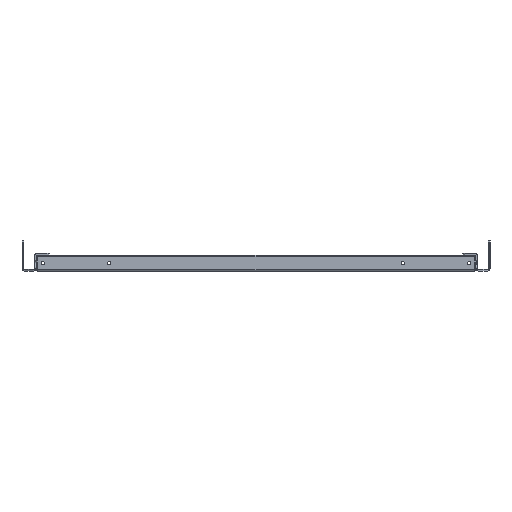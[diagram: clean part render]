
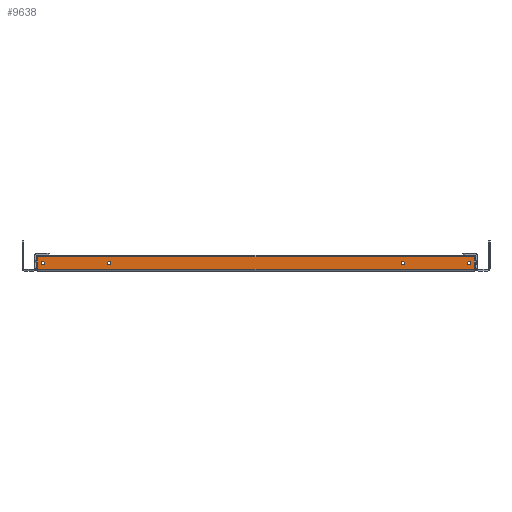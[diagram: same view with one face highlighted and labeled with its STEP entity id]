
A CAD part, left-side view. The second image highlights one B-rep face of the part: STEP entity #9638.
In plain terms, the highlighted planar face has unit normal (-1, 0, 0).
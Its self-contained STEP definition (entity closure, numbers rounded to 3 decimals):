
#83 = EDGE_CURVE ( 'NONE', #8587, #12518, #9701, .T. ) ;
#334 = CARTESIAN_POINT ( 'NONE',  ( -225., 266.5, 10. ) ) ;
#438 = CARTESIAN_POINT ( 'NONE',  ( -225., -266.5, 10. ) ) ;
#636 = DIRECTION ( 'NONE',  ( 1., 0., 0. ) ) ;
#740 = EDGE_CURVE ( 'NONE', #12105, #5027, #5229, .T. ) ;
#790 = ORIENTED_EDGE ( 'NONE', *, *, #1260, .F. ) ;
#892 = EDGE_LOOP ( 'NONE', ( #10327, #6258, #11685, #1023 ) ) ;
#948 = EDGE_CURVE ( 'NONE', #6035, #2548, #9524, .T. ) ;
#976 = CARTESIAN_POINT ( 'NONE',  ( -225., 273., 18. ) ) ;
#1023 = ORIENTED_EDGE ( 'NONE', *, *, #83, .T. ) ;
#1046 = ORIENTED_EDGE ( 'NONE', *, *, #12120, .T. ) ;
#1103 = CARTESIAN_POINT ( 'NONE',  ( -225., -183.5, 10. ) ) ;
#1260 = EDGE_CURVE ( 'NONE', #1548, #9807, #5670, .T. ) ;
#1356 = CARTESIAN_POINT ( 'NONE',  ( -225., -183.5, 10. ) ) ;
#1412 = DIRECTION ( 'NONE',  ( 0., 0., 1. ) ) ;
#1419 = DIRECTION ( 'NONE',  ( 1., 0., 0. ) ) ;
#1548 = VERTEX_POINT ( 'NONE', #10243 ) ;
#1659 = CIRCLE ( 'NONE', #8984, 2. ) ;
#1663 = CARTESIAN_POINT ( 'NONE',  ( -225., -273., 20. ) ) ;
#1895 = DIRECTION ( 'NONE',  ( 0., 0., -1. ) ) ;
#1904 = ORIENTED_EDGE ( 'NONE', *, *, #740, .T. ) ;
#1957 = LINE ( 'NONE', #2765, #2873 ) ;
#1986 = CIRCLE ( 'NONE', #3749, 2. ) ;
#2078 = CARTESIAN_POINT ( 'NONE',  ( -225., -183.5, 12. ) ) ;
#2314 = FACE_BOUND ( 'NONE', #3692, .T. ) ;
#2365 = EDGE_CURVE ( 'NONE', #6591, #8587, #10461, .T. ) ;
#2498 = AXIS2_PLACEMENT_3D ( 'NONE', #7746, #4676, #1895 ) ;
#2548 = VERTEX_POINT ( 'NONE', #9882 ) ;
#2576 = DIRECTION ( 'NONE',  ( 0., 0., -1. ) ) ;
#2765 = CARTESIAN_POINT ( 'NONE',  ( -225., 275., 18. ) ) ;
#2873 = VECTOR ( 'NONE', #7769, 1000. ) ;
#3026 = EDGE_LOOP ( 'NONE', ( #1046, #1904 ) ) ;
#3197 = ORIENTED_EDGE ( 'NONE', *, *, #7159, .F. ) ;
#3265 = EDGE_LOOP ( 'NONE', ( #5620, #10788 ) ) ;
#3395 = AXIS2_PLACEMENT_3D ( 'NONE', #8310, #9135, #1412 ) ;
#3403 = CARTESIAN_POINT ( 'NONE',  ( -225., -266.5, 12. ) ) ;
#3692 = EDGE_LOOP ( 'NONE', ( #3197, #5557 ) ) ;
#3749 = AXIS2_PLACEMENT_3D ( 'NONE', #438, #1419, #5426 ) ;
#3860 = AXIS2_PLACEMENT_3D ( 'NONE', #8202, #9210, #5310 ) ;
#3969 = EDGE_CURVE ( 'NONE', #8987, #8857, #1659, .T. ) ;
#4162 = FACE_BOUND ( 'NONE', #3026, .T. ) ;
#4338 = DIRECTION ( 'NONE',  ( 0., 0., 1. ) ) ;
#4535 = AXIS2_PLACEMENT_3D ( 'NONE', #1103, #11905, #6027 ) ;
#4676 = DIRECTION ( 'NONE',  ( 1., 0., 0. ) ) ;
#4779 = CARTESIAN_POINT ( 'NONE',  ( -225., -275., 2. ) ) ;
#4828 = VERTEX_POINT ( 'NONE', #12582 ) ;
#4863 = EDGE_CURVE ( 'NONE', #4828, #6591, #1957, .T. ) ;
#5027 = VERTEX_POINT ( 'NONE', #2078 ) ;
#5229 = CIRCLE ( 'NONE', #4535, 2. ) ;
#5310 = DIRECTION ( 'NONE',  ( 0., 0., 1. ) ) ;
#5311 = DIRECTION ( 'NONE',  ( 0., 0., 1. ) ) ;
#5426 = DIRECTION ( 'NONE',  ( 0., 0., 1. ) ) ;
#5557 = ORIENTED_EDGE ( 'NONE', *, *, #948, .F. ) ;
#5620 = ORIENTED_EDGE ( 'NONE', *, *, #3969, .T. ) ;
#5670 = CIRCLE ( 'NONE', #3395, 2. ) ;
#5962 = AXIS2_PLACEMENT_3D ( 'NONE', #334, #7253, #4338 ) ;
#6027 = DIRECTION ( 'NONE',  ( 0., 0., 1. ) ) ;
#6035 = VERTEX_POINT ( 'NONE', #8739 ) ;
#6258 = ORIENTED_EDGE ( 'NONE', *, *, #4863, .T. ) ;
#6399 = DIRECTION ( 'NONE',  ( -1., 0., 0. ) ) ;
#6485 = CARTESIAN_POINT ( 'NONE',  ( -225., 183.5, 10. ) ) ;
#6496 = CIRCLE ( 'NONE', #5962, 2. ) ;
#6518 = CARTESIAN_POINT ( 'NONE',  ( -225., 273., 20. ) ) ;
#6591 = VERTEX_POINT ( 'NONE', #976 ) ;
#6598 = VECTOR ( 'NONE', #2576, 1000. ) ;
#6932 = CARTESIAN_POINT ( 'NONE',  ( -225., 183.5, 12. ) ) ;
#7159 = EDGE_CURVE ( 'NONE', #2548, #6035, #6496, .T. ) ;
#7168 = LINE ( 'NONE', #1663, #10561 ) ;
#7253 = DIRECTION ( 'NONE',  ( -1., 0., 0. ) ) ;
#7278 = AXIS2_PLACEMENT_3D ( 'NONE', #6485, #6399, #8376 ) ;
#7321 = EDGE_CURVE ( 'NONE', #9807, #1548, #12327, .T. ) ;
#7449 = DIRECTION ( 'NONE',  ( 0., 0., 1. ) ) ;
#7641 = CARTESIAN_POINT ( 'NONE',  ( -225., 273., 2. ) ) ;
#7746 = CARTESIAN_POINT ( 'NONE',  ( -225., -275., 20. ) ) ;
#7769 = DIRECTION ( 'NONE',  ( 0., 1., 0. ) ) ;
#7926 = AXIS2_PLACEMENT_3D ( 'NONE', #1356, #10208, #5311 ) ;
#8202 = CARTESIAN_POINT ( 'NONE',  ( -225., 266.5, 10. ) ) ;
#8267 = CARTESIAN_POINT ( 'NONE',  ( -225., -273., 2. ) ) ;
#8310 = CARTESIAN_POINT ( 'NONE',  ( -225., 183.5, 10. ) ) ;
#8376 = DIRECTION ( 'NONE',  ( 0., 0., 1. ) ) ;
#8398 = CARTESIAN_POINT ( 'NONE',  ( -225., -183.5, 8. ) ) ;
#8417 = ORIENTED_EDGE ( 'NONE', *, *, #7321, .F. ) ;
#8587 = VERTEX_POINT ( 'NONE', #7641 ) ;
#8739 = CARTESIAN_POINT ( 'NONE',  ( -225., 266.5, 8. ) ) ;
#8857 = VERTEX_POINT ( 'NONE', #9288 ) ;
#8984 = AXIS2_PLACEMENT_3D ( 'NONE', #9337, #636, #12376 ) ;
#8987 = VERTEX_POINT ( 'NONE', #3403 ) ;
#9089 = FACE_OUTER_BOUND ( 'NONE', #892, .T. ) ;
#9135 = DIRECTION ( 'NONE',  ( -1., 0., 0. ) ) ;
#9210 = DIRECTION ( 'NONE',  ( -1., 0., 0. ) ) ;
#9288 = CARTESIAN_POINT ( 'NONE',  ( -225., -266.5, 8. ) ) ;
#9337 = CARTESIAN_POINT ( 'NONE',  ( -225., -266.5, 10. ) ) ;
#9489 = EDGE_LOOP ( 'NONE', ( #8417, #790 ) ) ;
#9524 = CIRCLE ( 'NONE', #3860, 2. ) ;
#9638 = ADVANCED_FACE ( 'NONE', ( #11377, #2314, #9089, #12447, #4162 ), #12558, .F. ) ;
#9701 = LINE ( 'NONE', #4779, #12148 ) ;
#9807 = VERTEX_POINT ( 'NONE', #6932 ) ;
#9882 = CARTESIAN_POINT ( 'NONE',  ( -225., 266.5, 12. ) ) ;
#10208 = DIRECTION ( 'NONE',  ( 1., 0., 0. ) ) ;
#10243 = CARTESIAN_POINT ( 'NONE',  ( -225., 183.5, 8. ) ) ;
#10327 = ORIENTED_EDGE ( 'NONE', *, *, #12572, .T. ) ;
#10461 = LINE ( 'NONE', #6518, #6598 ) ;
#10561 = VECTOR ( 'NONE', #7449, 1000. ) ;
#10718 = CIRCLE ( 'NONE', #7926, 2. ) ;
#10788 = ORIENTED_EDGE ( 'NONE', *, *, #11924, .T. ) ;
#11377 = FACE_BOUND ( 'NONE', #9489, .T. ) ;
#11685 = ORIENTED_EDGE ( 'NONE', *, *, #2365, .T. ) ;
#11715 = DIRECTION ( 'NONE',  ( 0., -1., 0. ) ) ;
#11905 = DIRECTION ( 'NONE',  ( 1., 0., 0. ) ) ;
#11924 = EDGE_CURVE ( 'NONE', #8857, #8987, #1986, .T. ) ;
#12105 = VERTEX_POINT ( 'NONE', #8398 ) ;
#12120 = EDGE_CURVE ( 'NONE', #5027, #12105, #10718, .T. ) ;
#12148 = VECTOR ( 'NONE', #11715, 1000. ) ;
#12327 = CIRCLE ( 'NONE', #7278, 2. ) ;
#12376 = DIRECTION ( 'NONE',  ( 0., 0., 1. ) ) ;
#12447 = FACE_BOUND ( 'NONE', #3265, .T. ) ;
#12518 = VERTEX_POINT ( 'NONE', #8267 ) ;
#12558 = PLANE ( 'NONE',  #2498 ) ;
#12572 = EDGE_CURVE ( 'NONE', #12518, #4828, #7168, .T. ) ;
#12582 = CARTESIAN_POINT ( 'NONE',  ( -225., -273., 18. ) ) ;
